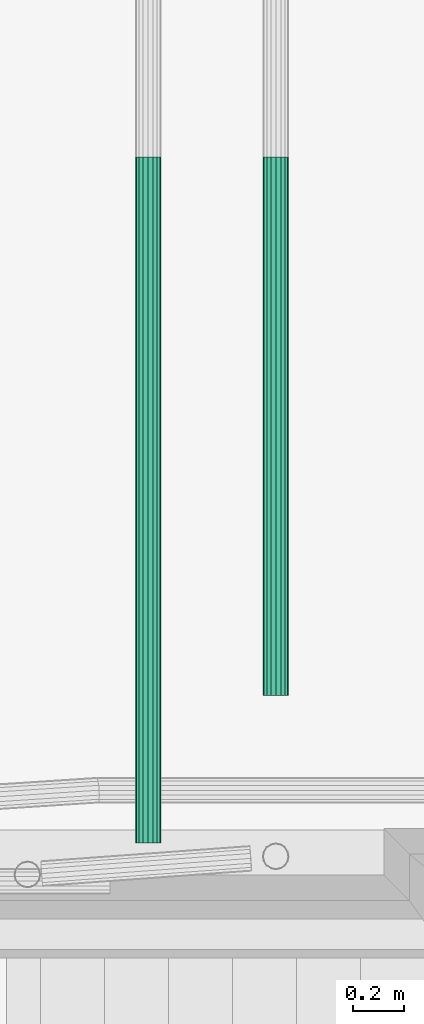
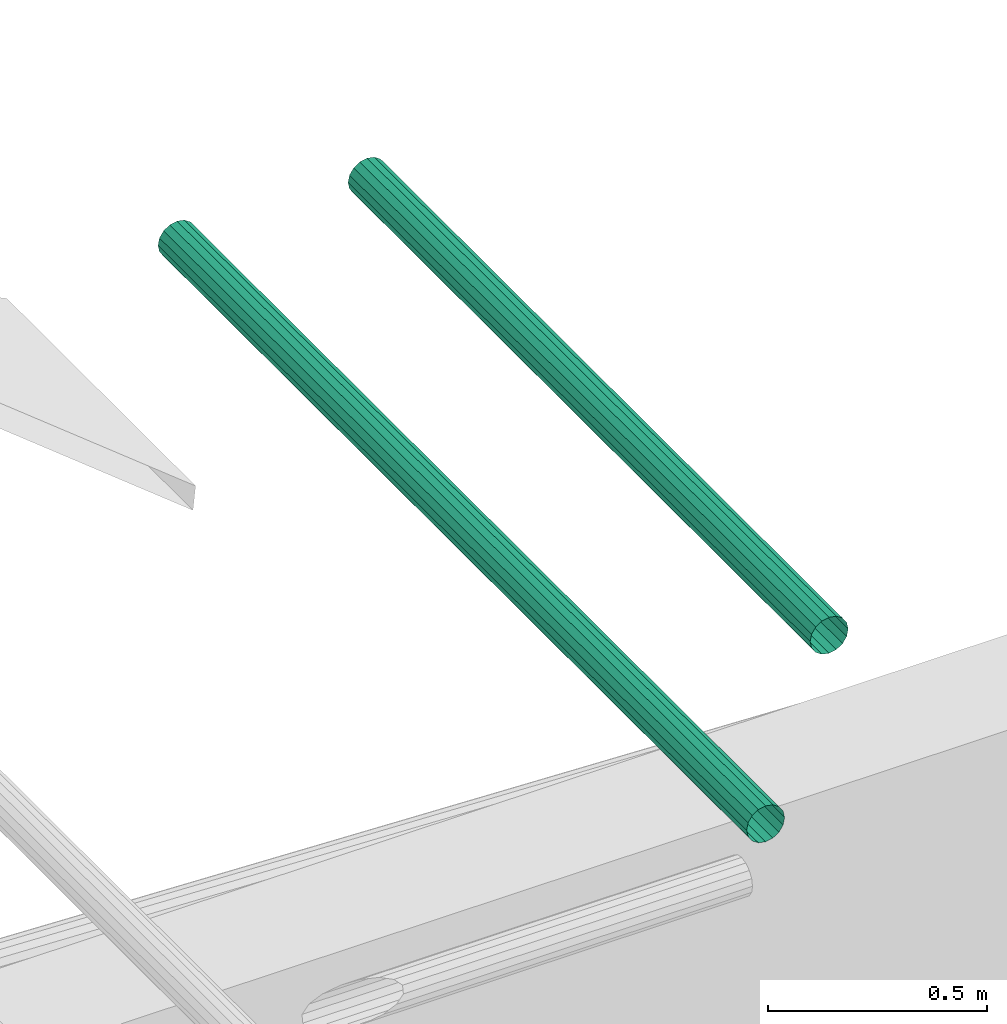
# One storey, part 54 of 106: 2 flow segments.
"""IFC2X3 building model written with IfcOpenShell, lengths in metres."""

import ifcopenshell
import ifcopenshell.guid

model = None  # the IFC model being written
_history = None  # IfcOwnerHistory: only IFC2X3 demands one
_inside = {}  # id of a spatial element -> (the spatial element, [elements in it])
_under = {}  # id of a project, library or spatial element -> (it, [spatial elements below it])
_declared = {}  # id of a project -> (the project, [libraries it declares])
_typed = {}  # id of a type object -> (the type object, [elements of that type])
_made_of = {}  # id of a material, layer set ... -> (it, [elements and type objects made of it])


def new_model(schema):
    """Start an empty IFC model of exactly this schema.

    Asked for "IFC4X3", IfcOpenShell would pick the latest addendum, in which some entities
    have other attributes; the version numbers below select the first issue.
    IFC2X3 requires an IfcOwnerHistory on every rooted entity: one is made here for all.
    """
    global model, _history
    if schema == "IFC4X3":
        model = ifcopenshell.file(schema_version=(4, 3, 0, 0))
    else:
        model = ifcopenshell.file(schema=schema)
    _inside.clear()
    _under.clear()
    _declared.clear()
    _typed.clear()
    _made_of.clear()
    _history = None
    if model.schema == "IFC2X3":
        org = make("IfcOrganization", Name="unknown")
        user = make(
            "IfcPersonAndOrganization",
            ThePerson=make("IfcPerson", FamilyName="unknown"),
            TheOrganization=org,
        )
        app = make(
            "IfcApplication",
            ApplicationDeveloper=org,
            Version="unknown",
            ApplicationFullName="unknown",
            ApplicationIdentifier="unknown",
        )
        _history = make(
            "IfcOwnerHistory",
            OwningUser=user,
            OwningApplication=app,
            ChangeAction="ADDED",
            CreationDate=0,
        )
    return model


def make(cls, **values):
    """One entity of the class cls with the attributes given. An attribute that is None is left unset."""
    return model.create_entity(
        cls, **{name: value for name, value in values.items() if value is not None}
    )


def entity(cls, *values):
    """Any entity or typed value of the class cls, its attributes in the order of the schema. None: left unset."""
    e = model.create_entity(cls)
    for i, value in enumerate(values):
        if value is not None:
            e[i] = value
    return e


def rooted(cls, **values):
    """An entity with a GlobalId (a new one), such as an element, a storey or a relation."""
    return make(cls, GlobalId=ifcopenshell.guid.new(), OwnerHistory=_history, **values)


def si_unit(unit_type, name, prefix=None):
    """IfcSIUnit, for example si_unit("LENGTHUNIT", "METRE", prefix="MILLI")."""
    return make("IfcSIUnit", UnitType=unit_type, Prefix=prefix, Name=name)


def converted_unit(unit_type, name, factor, base, dimensions=None, offset=None):
    """IfcConversionBasedUnit, such as the inch: factor (a typed value) times the base unit."""
    return make(
        "IfcConversionBasedUnit"
        if offset is None
        else "IfcConversionBasedUnitWithOffset",
        ConversionOffset=offset,
        Dimensions=None
        if dimensions is None
        else entity("IfcDimensionalExponents", *dimensions),
        UnitType=unit_type,
        Name=name,
        ConversionFactor=make(
            "IfcMeasureWithUnit", ValueComponent=factor, UnitComponent=base
        ),
    )


def derived_unit(unit_type, elements):
    """IfcDerivedUnit: a product of units, each with its exponent."""
    return make(
        "IfcDerivedUnit",
        Elements=[
            make("IfcDerivedUnitElement", Unit=unit, Exponent=power)
            for unit, power in elements
        ],
        UnitType=unit_type,
    )


def money_unit(currency):
    """IfcMonetaryUnit."""
    return make("IfcMonetaryUnit", Currency=currency)


def assignment(units):
    """IfcUnitAssignment: the units of a project."""
    return None if units is None else make("IfcUnitAssignment", Units=units)


def point(xyz):
    """IfcCartesianPoint."""
    return None if xyz is None else make("IfcCartesianPoint", Coordinates=xyz)


def direction(xyz):
    """IfcDirection."""
    return None if xyz is None else make("IfcDirection", DirectionRatios=xyz)


def frame(location, z_axis=None, x_axis=None):
    """IfcAxis2Placement3D, a coordinate frame: its origin and axes. An axis left out is left unset."""
    return make(
        "IfcAxis2Placement3D",
        Location=point(location),
        Axis=direction(z_axis),
        RefDirection=direction(x_axis),
    )


def origin_with_axes():
    """The frame at (0, 0, 0) with the z axis (0, 0, 1) and the x axis (1, 0, 0) written out."""
    return frame((0.0, 0.0, 0.0), z_axis=(0.0, 0.0, 1.0), x_axis=(1.0, 0.0, 0.0))


def place(relative_to, where):
    """IfcLocalPlacement: puts the frame where relative to a parent placement (None: the world)."""
    return make(
        "IfcLocalPlacement", PlacementRelTo=relative_to, RelativePlacement=where
    )


def context(
    kind, dimensions, precision=None, world=None, true_north=None, identifier=None
):
    """IfcGeometricRepresentationContext, for example the 3D "Model" context."""
    return make(
        "IfcGeometricRepresentationContext",
        ContextIdentifier=identifier,
        ContextType=kind,
        CoordinateSpaceDimension=dimensions,
        Precision=precision,
        WorldCoordinateSystem=world,
        TrueNorth=true_north,
    )


def subcontext(parent, identifier, kind, view, scale=None):
    """IfcGeometricRepresentationSubContext, for example "Body" below "Model"."""
    return make(
        "IfcGeometricRepresentationSubContext",
        ContextIdentifier=identifier,
        ContextType=kind,
        ParentContext=parent,
        TargetScale=scale,
        TargetView=view,
    )


def project(units=None, contexts=None):
    """IfcProject with its units and contexts."""
    return rooted(
        "IfcProject",
        Name="project",
        RepresentationContexts=contexts,
        UnitsInContext=assignment(units),
    )


def spatial(cls, under=None, at=None, **own):
    """A site, building, storey or space (cls), placed at a placement, below another one or the project."""
    s = rooted(cls, ObjectPlacement=at, **own)
    if under is not None:
        _under.setdefault(under.id(), (under, []))[1].append(s)
    return s


def faces_of(points, faces, orient=None, outer=None):
    """IfcFace entities. A face is a list of loops; a loop is a list of indices into points, from 0.

    orient and outer hold one flag for each loop. By default every Orientation is true, the
    first loop of a face is its IfcFaceOuterBound and the others are IfcFaceBound.
    """
    made = []
    for i, loops in enumerate(faces):
        bounds = []
        for j, loop in enumerate(loops):
            is_outer = j == 0 if outer is None else outer[i][j]
            bounds.append(
                make(
                    "IfcFaceOuterBound" if is_outer else "IfcFaceBound",
                    Bound=make("IfcPolyLoop", Polygon=[points[k] for k in loop]),
                    Orientation=True if orient is None else orient[i][j],
                )
            )
        made.append(make("IfcFace", Bounds=bounds))
    return made


def faceted_brep(points, faces, orient=None, outer=None, voids=None):
    """IfcFacetedBrep: a solid bounded by flat faces; with voids (closed shells), ...WithVoids."""
    shared = [point(p) for p in points]
    hull = make("IfcClosedShell", CfsFaces=faces_of(shared, faces, orient, outer))
    if voids is None:
        return make("IfcFacetedBrep", Outer=hull)
    return make(
        "IfcFacetedBrepWithVoids",
        Outer=hull,
        Voids=[
            make(cls, CfsFaces=faces_of(shared, fs, o, b)) for cls, fs, o, b in voids
        ],
    )


def shape(context_of_items, identifier, shape_type, items):
    """IfcShapeRepresentation: the items that make up one representation, for example the "Body"."""
    return make(
        "IfcShapeRepresentation",
        ContextOfItems=context_of_items,
        RepresentationIdentifier=identifier,
        RepresentationType=shape_type,
        Items=items,
    )


def material(Name=None, Category=None):
    """IfcMaterial."""
    return make("IfcMaterial", Name=Name, Category=Category)


def made_of(thing, what):
    """Note that an element or type object is made of a material, layer set ...; save() writes the relation."""
    if what is not None:
        _made_of.setdefault(what.id(), (what, []))[1].append(thing)
    return thing


def type_object(cls, material=None, **own):
    """A type object (cls), such as IfcWallType, which elements share."""
    return made_of(rooted(cls, **own), material)


def element(
    cls,
    number,
    at=None,
    inside=None,
    cuts=None,
    type_object=None,
    material=None,
    context=None,
    identifier="Body",
    shape_type=None,
    held_by="IfcProductDefinitionShape",
    body=None,
    shapes=None,
    **own,
):
    """One element of the class cls, such as IfcWall. Its Tag is "e" and its number.

    at: its placement. inside: the storey or other place that contains it. cuts: it is an
    opening in that element (IfcRelVoidsElement). A single representation is given by context,
    identifier, shape_type and body (its items); several are given by shapes. held_by: the class
    of the entity that holds the representations. save() writes the other relations.
    """
    e = rooted(cls, Tag="e%d" % number, ObjectPlacement=at, **own)
    if body is not None:
        shapes = [shape(context, identifier, shape_type, body)]
    if shapes is not None:
        e.Representation = make(held_by, Representations=shapes)
    if inside is not None:
        _inside.setdefault(inside.id(), (inside, []))[1].append(e)
    if cuts is not None:
        rooted(
            "IfcRelVoidsElement", RelatingBuildingElement=cuts, RelatedOpeningElement=e
        )
    if type_object is not None:
        _typed.setdefault(type_object.id(), (type_object, []))[1].append(e)
    return made_of(e, material)


def aggregate(whole, parts):
    """IfcRelAggregates: a whole, such as a stair, and the parts it consists of."""
    return rooted("IfcRelAggregates", RelatingObject=whole, RelatedObjects=parts)


def save(model, path):
    """Write the relations noted so far, then the file.

    IfcRelAggregates (storeys below a building ...), IfcRelContainedInSpatialStructure (elements
    in a storey), IfcRelDefinesByType, IfcRelAssociatesMaterial and IfcRelDeclares: one each for
    every whole, place, type object, material and project.
    """
    for whole, parts in _under.values():
        aggregate(whole, parts)
    for where, things in _inside.values():
        rooted(
            "IfcRelContainedInSpatialStructure",
            RelatedElements=things,
            RelatingStructure=where,
        )
    for kind, things in _typed.values():
        rooted("IfcRelDefinesByType", RelatedObjects=things, RelatingType=kind)
    for what, things in _made_of.values():
        rooted("IfcRelAssociatesMaterial", RelatedObjects=things, RelatingMaterial=what)
    for by, libraries in _declared.values():
        rooted("IfcRelDeclares", RelatingContext=by, RelatedDefinitions=libraries)
    model.write(path)


model = new_model("IFC2X3")

# Units and contexts
model_context = context("Model", 3, precision=1e-05, world=origin_with_axes(), true_north=direction((0.0, 1.0)))
body_context = subcontext(model_context, "Body", "Model", "MODEL_VIEW", scale=1.0)
ifc_project = project(units=[si_unit("LENGTHUNIT", "METRE"), si_unit("AREAUNIT", "SQUARE_METRE"), si_unit("VOLUMEUNIT", "CUBIC_METRE"), si_unit("ABSORBEDDOSEUNIT", "GRAY"), si_unit("AMOUNTOFSUBSTANCEUNIT", "MOLE"), si_unit("DOSEEQUIVALENTUNIT", "SIEVERT"), si_unit("ELECTRICCAPACITANCEUNIT", "FARAD"), si_unit("ELECTRICCHARGEUNIT", "COULOMB"), si_unit("ELECTRICCONDUCTANCEUNIT", "SIEMENS"), si_unit("ELECTRICCURRENTUNIT", "AMPERE"), si_unit("ELECTRICRESISTANCEUNIT", "OHM"), si_unit("ELECTRICVOLTAGEUNIT", "VOLT"), si_unit("ENERGYUNIT", "JOULE"), si_unit("FORCEUNIT", "NEWTON"), si_unit("FREQUENCYUNIT", "HERTZ"), si_unit("ILLUMINANCEUNIT", "LUX"), si_unit("INDUCTANCEUNIT", "HENRY"), si_unit("LUMINOUSFLUXUNIT", "LUMEN"), si_unit("LUMINOUSINTENSITYUNIT", "CANDELA"), si_unit("MAGNETICFLUXDENSITYUNIT", "TESLA"), si_unit("MAGNETICFLUXUNIT", "WEBER"), si_unit("MASSUNIT", "GRAM"), converted_unit("PLANEANGLEUNIT", "degree", entity("IfcReal", 0.0174532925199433), si_unit("PLANEANGLEUNIT", "RADIAN"), dimensions=[0, 0, 0, 0, 0, 0, 0]), si_unit("POWERUNIT", "WATT"), si_unit("PRESSUREUNIT", "PASCAL"), si_unit("RADIOACTIVITYUNIT", "BECQUEREL"), si_unit("SOLIDANGLEUNIT", "STERADIAN"), si_unit("THERMODYNAMICTEMPERATUREUNIT", "KELVIN"), si_unit("TIMEUNIT", "SECOND"), derived_unit("ACCELERATIONUNIT", [(si_unit("LENGTHUNIT", "METRE"), 1), (si_unit("TIMEUNIT", "SECOND"), -2)]), derived_unit("ANGULARVELOCITYUNIT", [(converted_unit("PLANEANGLEUNIT", "degree", entity("IfcReal", 0.0174532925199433), si_unit("PLANEANGLEUNIT", "RADIAN"), dimensions=[0, 0, 0, 0, 0, 0, 0]), 1), (si_unit("TIMEUNIT", "SECOND"), -1)]), derived_unit("CURVATUREUNIT", [(converted_unit("PLANEANGLEUNIT", "degree", entity("IfcReal", 0.0174532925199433), si_unit("PLANEANGLEUNIT", "RADIAN"), dimensions=[0, 0, 0, 0, 0, 0, 0]), 1), (si_unit("LENGTHUNIT", "METRE"), -1)]), derived_unit("DYNAMICVISCOSITYUNIT", [(si_unit("PRESSUREUNIT", "PASCAL"), 1), (si_unit("TIMEUNIT", "SECOND"), 1)]), derived_unit("HEATFLUXDENSITYUNIT", [(si_unit("POWERUNIT", "WATT"), 1), (si_unit("LENGTHUNIT", "METRE"), -2)]), derived_unit("HEATINGVALUEUNIT", [(si_unit("ENERGYUNIT", "JOULE"), 1), (si_unit("MASSUNIT", "GRAM"), -1)]), derived_unit("INTEGERCOUNTRATEUNIT", [(si_unit("TIMEUNIT", "SECOND"), -1)]), derived_unit("IONCONCENTRATIONUNIT", [(si_unit("MASSUNIT", "GRAM"), 1), (si_unit("VOLUMEUNIT", "CUBIC_METRE"), -1)]), derived_unit("ISOTHERMALMOISTURECAPACITYUNIT", [(si_unit("VOLUMEUNIT", "CUBIC_METRE"), 1), (si_unit("MASSUNIT", "GRAM"), -1)]), derived_unit("KINEMATICVISCOSITYUNIT", [(si_unit("AREAUNIT", "SQUARE_METRE"), 1), (si_unit("TIMEUNIT", "SECOND"), -1)]), derived_unit("LINEARFORCEUNIT", [(si_unit("FORCEUNIT", "NEWTON"), 1), (si_unit("LENGTHUNIT", "METRE"), -1)]), derived_unit("LINEARMOMENTUNIT", [(si_unit("FORCEUNIT", "NEWTON"), 1), (si_unit("LENGTHUNIT", "METRE"), -1)]), derived_unit("LINEARSTIFFNESSUNIT", [(si_unit("FORCEUNIT", "NEWTON"), 1), (si_unit("LENGTHUNIT", "METRE"), -1)]), derived_unit("LINEARVELOCITYUNIT", [(si_unit("LENGTHUNIT", "METRE"), 1), (si_unit("TIMEUNIT", "SECOND"), -1)]), derived_unit("LUMINOUSINTENSITYDISTRIBUTIONUNIT", [(si_unit("LUMINOUSINTENSITYUNIT", "CANDELA"), 1), (si_unit("LUMINOUSFLUXUNIT", "LUMEN"), -1)]), derived_unit("MASSDENSITYUNIT", [(si_unit("MASSUNIT", "GRAM"), 1), (si_unit("VOLUMEUNIT", "CUBIC_METRE"), -1)]), derived_unit("MASSFLOWRATEUNIT", [(si_unit("MASSUNIT", "GRAM"), 1), (si_unit("TIMEUNIT", "SECOND"), -1)]), derived_unit("MASSPERLENGTHUNIT", [(si_unit("MASSUNIT", "GRAM"), 1), (si_unit("LENGTHUNIT", "METRE"), -1)]), derived_unit("MODULUSOFELASTICITYUNIT", [(si_unit("FORCEUNIT", "NEWTON"), 1), (si_unit("AREAUNIT", "SQUARE_METRE"), -1)]), derived_unit("MODULUSOFLINEARSUBGRADEREACTIONUNIT", [(si_unit("FORCEUNIT", "NEWTON"), 1), (si_unit("LENGTHUNIT", "METRE"), -2)]), derived_unit("MODULUSOFROTATIONALSUBGRADEREACTIONUNIT", [(si_unit("FORCEUNIT", "NEWTON"), 1), (si_unit("LENGTHUNIT", "METRE"), 1)]), derived_unit("MODULUSOFSUBGRADEREACTIONUNIT", [(si_unit("FORCEUNIT", "NEWTON"), 1), (si_unit("VOLUMEUNIT", "CUBIC_METRE"), -1)]), derived_unit("MOISTUREDIFFUSIVITYUNIT", [(si_unit("VOLUMEUNIT", "CUBIC_METRE"), 1), (si_unit("TIMEUNIT", "SECOND"), -1)]), derived_unit("MOLECULARWEIGHTUNIT", [(si_unit("MASSUNIT", "GRAM"), 1), (si_unit("AMOUNTOFSUBSTANCEUNIT", "MOLE"), -1)]), derived_unit("PLANARFORCEUNIT", [(si_unit("FORCEUNIT", "NEWTON"), 1), (si_unit("LENGTHUNIT", "METRE"), -2)]), derived_unit("ROTATIONALFREQUENCYUNIT", [(si_unit("TIMEUNIT", "SECOND"), -1)]), derived_unit("ROTATIONALMASSUNIT", [(si_unit("MASSUNIT", "GRAM"), 1), (si_unit("LENGTHUNIT", "METRE"), 2)]), derived_unit("ROTATIONALSTIFFNESSUNIT", [(si_unit("FORCEUNIT", "NEWTON"), 1), (si_unit("LENGTHUNIT", "METRE"), 1), (converted_unit("PLANEANGLEUNIT", "degree", entity("IfcReal", 0.0174532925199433), si_unit("PLANEANGLEUNIT", "RADIAN"), dimensions=[0, 0, 0, 0, 0, 0, 0]), -1)]), derived_unit("SECTIONAREAINTEGRALUNIT", [(si_unit("LENGTHUNIT", "METRE"), 5)]), derived_unit("SECTIONMODULUSUNIT", [(si_unit("LENGTHUNIT", "METRE"), 3)]), derived_unit("SHEARMODULUSUNIT", [(si_unit("FORCEUNIT", "NEWTON"), 1), (si_unit("AREAUNIT", "SQUARE_METRE"), -1)]), derived_unit("SOUNDPOWERUNIT", [(si_unit("ENERGYUNIT", "JOULE"), 1), (si_unit("TIMEUNIT", "SECOND"), -1)]), derived_unit("SPECIFICHEATCAPACITYUNIT", [(si_unit("FORCEUNIT", "NEWTON"), 1), (si_unit("MASSUNIT", "GRAM"), -1), (si_unit("THERMODYNAMICTEMPERATUREUNIT", "KELVIN"), -1)]), derived_unit("TEMPERATUREGRADIENTUNIT", [(si_unit("THERMODYNAMICTEMPERATUREUNIT", "KELVIN"), 1), (si_unit("LENGTHUNIT", "METRE"), -1)]), derived_unit("THERMALADMITTANCEUNIT", [(si_unit("POWERUNIT", "WATT"), 1), (si_unit("AREAUNIT", "SQUARE_METRE"), -1), (si_unit("THERMODYNAMICTEMPERATUREUNIT", "KELVIN"), -1)]), derived_unit("THERMALCONDUCTANCEUNIT", [(si_unit("POWERUNIT", "WATT"), 1), (si_unit("LENGTHUNIT", "METRE"), -1), (si_unit("THERMODYNAMICTEMPERATUREUNIT", "KELVIN"), -1)]), derived_unit("THERMALEXPANSIONCOEFFICIENTUNIT", [(si_unit("THERMODYNAMICTEMPERATUREUNIT", "KELVIN"), -1)]), derived_unit("THERMALRESISTANCEUNIT", [(si_unit("AREAUNIT", "SQUARE_METRE"), 1), (si_unit("POWERUNIT", "WATT"), -1)]), derived_unit("THERMALTRANSMITTANCEUNIT", [(si_unit("POWERUNIT", "WATT"), 1), (si_unit("AREAUNIT", "SQUARE_METRE"), -1), (si_unit("THERMODYNAMICTEMPERATUREUNIT", "KELVIN"), -1)]), derived_unit("TORQUEUNIT", [(si_unit("FORCEUNIT", "NEWTON"), 1), (si_unit("LENGTHUNIT", "METRE"), 1)]), derived_unit("VAPORPERMEABILITYUNIT", [(si_unit("MASSUNIT", "GRAM"), 1), (si_unit("TIMEUNIT", "SECOND"), -1)]), derived_unit("VOLUMETRICFLOWRATEUNIT", [(si_unit("VOLUMEUNIT", "CUBIC_METRE"), 1), (si_unit("TIMEUNIT", "SECOND"), -1)]), derived_unit("WARPINGCONSTANTUNIT", [(si_unit("LENGTHUNIT", "METRE"), 6)]), derived_unit("WARPINGMOMENTUNIT", [(si_unit("FORCEUNIT", "NEWTON"), 1), (si_unit("LENGTHUNIT", "METRE"), 2)]), money_unit("GBP")], contexts=[model_context])

# Site, building, storey
site_placement = place(None, origin_with_axes())
site = spatial("IfcSite", under=ifc_project, at=site_placement, Name="Site", CompositionType="ELEMENT")
building_placement = place(site_placement, origin_with_axes())
building = spatial("IfcBuilding", under=site, at=building_placement, Name="Building01", CompositionType="ELEMENT")
storey_placement = place(building_placement, origin_with_axes())
storey = spatial("IfcBuildingStorey", under=building, at=storey_placement, Name="GF", CompositionType="ELEMENT", Elevation=0.0)

# Flow segments
ifc_material = material(Name="M_BSUK_Ventilation")
duct_segment_type = type_object("IfcDuctSegmentType", Name="M-RoundDuct", PredefinedType="RIGIDSEGMENT")
flow_segment_1_placement = place(storey_placement, frame((13.25, 11.779994, 20.03), z_axis=(0.0, 0.0, 1.0), x_axis=(0.0, -1.0, 0.0)))
element("IfcFlowSegment", 1, at=flow_segment_1_placement, inside=storey, type_object=duct_segment_type, material=ifc_material, Name="M-RoundDuct", ObjectType="M-RoundDuct", context=body_context, shape_type="Brep", body=[
    faceted_brep([(2.682642, 0.0, -0.05), (0.0, 0.0, -0.05), (0.0, 0.019134, -0.046194), (2.682642, 0.019134, -0.046194), (0.0, 0.035355, -0.035355), (2.682642, 0.035355, -0.035355), (0.0, 0.046194, -0.019134), (2.682642, 0.046194, -0.019134), (0.0, 0.05, 0.0), (2.682642, 0.05, 0.0), (0.0, 0.046194, 0.019134), (2.682642, 0.046194, 0.019134), (0.0, 0.035355, 0.035355), (2.682642, 0.035355, 0.035355), (0.0, 0.019134, 0.046194), (2.682642, 0.019134, 0.046194), (0.0, 0.0, 0.05), (2.682642, 0.0, 0.05), (0.0, -0.019134, 0.046194), (2.682642, -0.019134, 0.046194), (0.0, -0.035355, 0.035355), (2.682642, -0.035355, 0.035355), (0.0, -0.046194, 0.019134), (2.682642, -0.046194, 0.019134), (0.0, -0.05, 0.0), (2.682642, -0.05, 0.0), (0.0, -0.046194, -0.019134), (2.682642, -0.046194, -0.019134), (0.0, -0.035355, -0.035355), (2.682642, -0.035355, -0.035355), (0.0, -0.019134, -0.046194), (2.682642, -0.019134, -0.046194)], [[[0, 1, 2, 3]], [[3, 2, 4, 5]], [[5, 4, 6, 7]], [[7, 6, 8, 9]], [[9, 8, 10, 11]], [[11, 10, 12, 13]], [[13, 12, 14, 15]], [[15, 14, 16, 17]], [[17, 16, 18, 19]], [[19, 18, 20, 21]], [[21, 20, 22, 23]], [[23, 22, 24, 25]], [[25, 24, 26, 27]], [[27, 26, 28, 29]], [[29, 28, 30, 31]], [[31, 30, 1, 0]]]),
])
flow_segment_2_placement = place(storey_placement, frame((13.75, 9.673777, 20.03), z_axis=(0.0, 0.0, 1.0), x_axis=(0.0, 1.0, 0.0)))
element("IfcFlowSegment", 2, at=flow_segment_2_placement, inside=storey, type_object=duct_segment_type, material=ifc_material, Name="M-RoundDuct", ObjectType="M-RoundDuct", context=body_context, shape_type="Brep", body=[
    faceted_brep([(2.106218, 0.0, -0.05), (0.0, 0.0, -0.05), (0.0, 0.019134, -0.046194), (2.106218, 0.019134, -0.046194), (0.0, 0.035355, -0.035355), (2.106218, 0.035355, -0.035355), (0.0, 0.046194, -0.019134), (2.106218, 0.046194, -0.019134), (0.0, 0.05, 0.0), (2.106218, 0.05, 0.0), (0.0, 0.046194, 0.019134), (2.106218, 0.046194, 0.019134), (0.0, 0.035355, 0.035355), (2.106218, 0.035355, 0.035355), (0.0, 0.019134, 0.046194), (2.106218, 0.019134, 0.046194), (0.0, 0.0, 0.05), (2.106218, 0.0, 0.05), (0.0, -0.019134, 0.046194), (2.106218, -0.019134, 0.046194), (0.0, -0.035355, 0.035355), (2.106218, -0.035355, 0.035355), (0.0, -0.046194, 0.019134), (2.106218, -0.046194, 0.019134), (0.0, -0.05, 0.0), (2.106218, -0.05, 0.0), (0.0, -0.046194, -0.019134), (2.106218, -0.046194, -0.019134), (0.0, -0.035355, -0.035355), (2.106218, -0.035355, -0.035355), (0.0, -0.019134, -0.046194), (2.106218, -0.019134, -0.046194)], [[[0, 1, 2, 3]], [[3, 2, 4, 5]], [[5, 4, 6, 7]], [[7, 6, 8, 9]], [[9, 8, 10, 11]], [[11, 10, 12, 13]], [[13, 12, 14, 15]], [[15, 14, 16, 17]], [[17, 16, 18, 19]], [[19, 18, 20, 21]], [[21, 20, 22, 23]], [[23, 22, 24, 25]], [[25, 24, 26, 27]], [[27, 26, 28, 29]], [[29, 28, 30, 31]], [[31, 30, 1, 0]]]),
])

save(model, "model.ifc")
